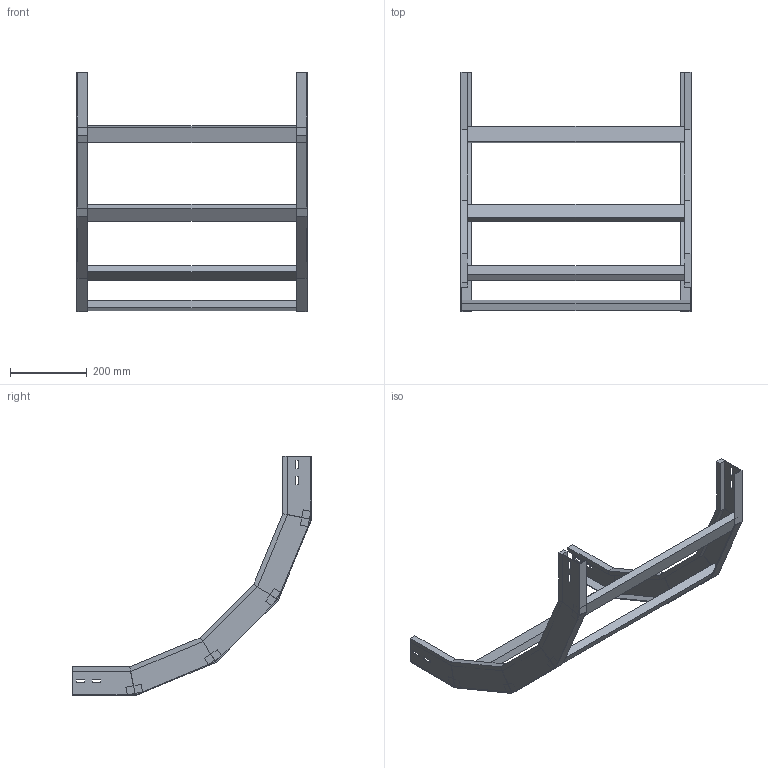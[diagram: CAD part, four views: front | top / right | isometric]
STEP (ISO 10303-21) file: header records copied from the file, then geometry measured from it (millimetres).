
FILE_DESCRIPTION (( 'STEP AP214' ), '1' );
FILE_NAME ('A2X30B5C600XX.step', '2025-03-20T10:24:52', ( '' ), ( '' ), 'SwSTEP 2.0', 'SolidWorks 2023', '' );
FILE_SCHEMA (( 'AUTOMOTIVE_DESIGN' ));
Length unit declared in the file: millimetre
Products named in the file (3): LONGH.SALITA_90°_H75_R500; TRAVERSINO_600; A2X30B5C600XX
Assembly tree (6 placements, depth 2):
  A2X30B5C600XX
    LONGH.SALITA_90°_H75_R500  x2
    TRAVERSINO_600  x4
Bounding box: 600 x 624.12 x 624.12 mm (x, y, z)
Volume: 2663170.9 mm3; surface area: 747923.8 mm2
Topology: 6 solids, 6 shells, 140 faces, 320 edges, 192 vertices
Faces by surface type: plane 140
Entity records: 1872 total; most frequent: CARTESIAN_POINT 309, ORIENTED_EDGE 296, DIRECTION 294, EDGE_CURVE 148, LINE 148, VECTOR 148, VERTEX_POINT 88, AXIS2_PLACEMENT_3D 73
